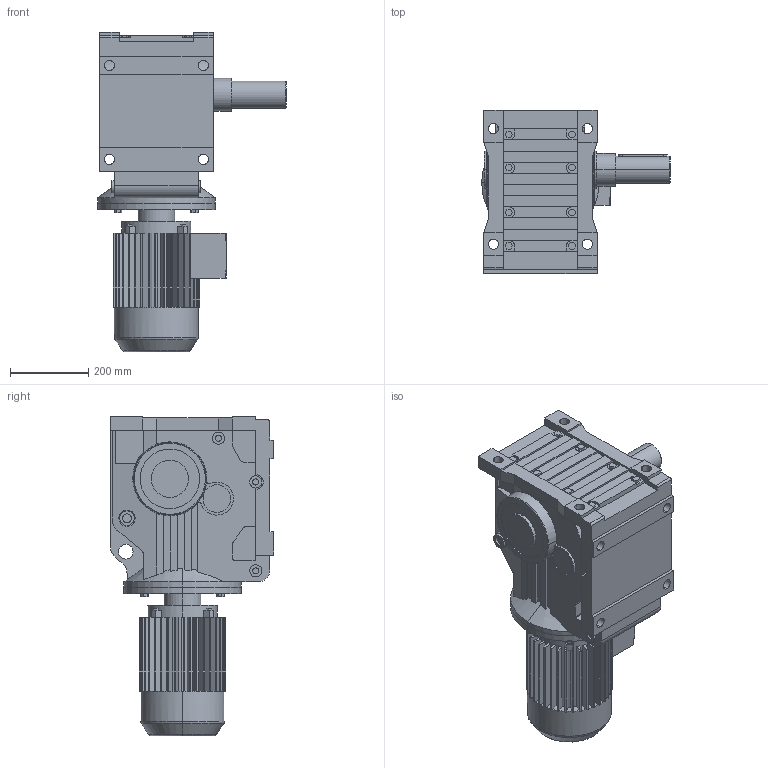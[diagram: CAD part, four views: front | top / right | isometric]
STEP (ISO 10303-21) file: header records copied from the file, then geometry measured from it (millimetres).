
FILE_DESCRIPTION(('Open CASCADE Model'),'2;1');
FILE_NAME('Open CASCADE Shape Model','2021-05-31T16:49:01',('Author'),( 'Open CASCADE'),'Open CASCADE STEP processor 6.3','Open CASCADE 6.3' ,'Unknown');
FILE_SCHEMA(('AUTOMOTIVE_DESIGN_CC2 { 1 2 10303 214 -1 1 5 4 }'));
Length unit declared in the file: millimetre
Products named in the file (4): 1_K97DV132S-A; K37‵157_97.step; 萇儂_300-DV132S-380-460-221-179.step; す瑩妗陑粣K_97.step
Assembly tree (3 placements, depth 2):
  1_K97DV132S-A
    K37‵157_97.step
    萇儂_300-DV132S-380-460-221-179.step
    す瑩妗陑粣K_97.step
Bounding box: 482 x 417 x 817 mm (x, y, z)
Volume: 50738333.1 mm3; surface area: 1889135.5 mm2
Topology: 3 solids, 3 shells, 836 faces, 2204 edges, 1431 vertices
Faces by surface type: plane 582, cylinder 231, cone 15, torus 8
Entity records: 57790 total; most frequent: CARTESIAN_POINT 15909, DIRECTION 7217, ORIENTED_EDGE 4404, PCURVE 4404, DEFINITIONAL_REPRESENTATION 4404, LINE 3932, VECTOR 3932, EDGE_CURVE 2202
